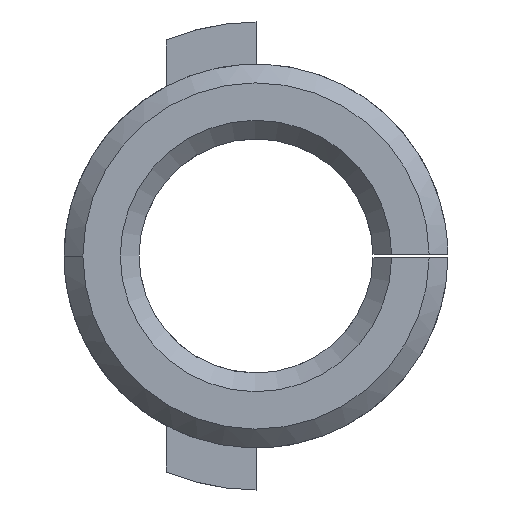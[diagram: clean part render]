
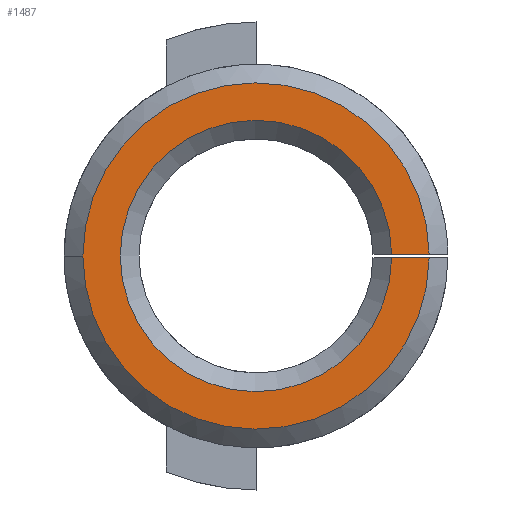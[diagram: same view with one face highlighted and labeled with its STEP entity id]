
A CAD part, front view. The second image highlights one B-rep face of the part: STEP entity #1487.
In plain terms, the highlighted planar face has unit normal (0, -1, 0).
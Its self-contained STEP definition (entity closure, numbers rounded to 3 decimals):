
#8 = PLANE ( 'NONE',  #386 ) ;
#14 = AXIS2_PLACEMENT_3D ( 'NONE', #216, #634, #1745 ) ;
#21 = VERTEX_POINT ( 'NONE', #370 ) ;
#45 = CIRCLE ( 'NONE', #1327, 9.25 ) ;
#162 = CARTESIAN_POINT ( 'NONE',  ( 9.25, 0., 0.1 ) ) ;
#173 = CARTESIAN_POINT ( 'NONE',  ( 0., 0., 0. ) ) ;
#216 = CARTESIAN_POINT ( 'NONE',  ( 0., 0., 0. ) ) ;
#217 = VECTOR ( 'NONE', #770, 1000. ) ;
#285 = ORIENTED_EDGE ( 'NONE', *, *, #1578, .T. ) ;
#362 = EDGE_CURVE ( 'NONE', #1429, #791, #464, .T. ) ;
#370 = CARTESIAN_POINT ( 'NONE',  ( 7.249, 0., -0.1 ) ) ;
#386 = AXIS2_PLACEMENT_3D ( 'NONE', #1102, #1669, #1272 ) ;
#443 = CIRCLE ( 'NONE', #600, 9.25 ) ;
#464 = LINE ( 'NONE', #1736, #217 ) ;
#500 = EDGE_CURVE ( 'NONE', #1323, #1695, #443, .T. ) ;
#519 = ORIENTED_EDGE ( 'NONE', *, *, #362, .T. ) ;
#522 = DIRECTION ( 'NONE',  ( 1., 0., 0. ) ) ;
#530 = CARTESIAN_POINT ( 'NONE',  ( 0., 0., 0. ) ) ;
#600 = AXIS2_PLACEMENT_3D ( 'NONE', #530, #1099, #522 ) ;
#630 = CARTESIAN_POINT ( 'NONE',  ( 9.25, 0., -0.1 ) ) ;
#634 = DIRECTION ( 'NONE',  ( 0., 1., 0. ) ) ;
#672 = LINE ( 'NONE', #1309, #1544 ) ;
#712 = ORIENTED_EDGE ( 'NONE', *, *, #1017, .T. ) ;
#752 = DIRECTION ( 'NONE',  ( -1., 0., 0. ) ) ;
#770 = DIRECTION ( 'NONE',  ( 1., 0., 0. ) ) ;
#791 = VERTEX_POINT ( 'NONE', #162 ) ;
#809 = ORIENTED_EDGE ( 'NONE', *, *, #500, .T. ) ;
#950 = CARTESIAN_POINT ( 'NONE',  ( -9.25, 0., 0. ) ) ;
#1017 = EDGE_CURVE ( 'NONE', #1695, #21, #672, .T. ) ;
#1099 = DIRECTION ( 'NONE',  ( 0., -1., 0. ) ) ;
#1102 = CARTESIAN_POINT ( 'NONE',  ( 0., 0., 0. ) ) ;
#1142 = DIRECTION ( 'NONE',  ( 0., -1., 0. ) ) ;
#1156 = EDGE_CURVE ( 'NONE', #21, #1429, #1337, .T. ) ;
#1224 = ORIENTED_EDGE ( 'NONE', *, *, #1156, .T. ) ;
#1234 = FACE_OUTER_BOUND ( 'NONE', #1764, .T. ) ;
#1272 = DIRECTION ( 'NONE',  ( 1., 0., 0. ) ) ;
#1309 = CARTESIAN_POINT ( 'NONE',  ( 3.155, 0., -0.1 ) ) ;
#1323 = VERTEX_POINT ( 'NONE', #950 ) ;
#1327 = AXIS2_PLACEMENT_3D ( 'NONE', #173, #1142, #1691 ) ;
#1337 = CIRCLE ( 'NONE', #14, 7.25 ) ;
#1349 = CARTESIAN_POINT ( 'NONE',  ( 7.249, 0., 0.1 ) ) ;
#1429 = VERTEX_POINT ( 'NONE', #1349 ) ;
#1487 = ADVANCED_FACE ( 'NONE', ( #1234 ), #8, .T. ) ;
#1544 = VECTOR ( 'NONE', #752, 1000. ) ;
#1578 = EDGE_CURVE ( 'NONE', #791, #1323, #45, .T. ) ;
#1669 = DIRECTION ( 'NONE',  ( 0., -1., 0. ) ) ;
#1691 = DIRECTION ( 'NONE',  ( 1., 0., 0. ) ) ;
#1695 = VERTEX_POINT ( 'NONE', #630 ) ;
#1736 = CARTESIAN_POINT ( 'NONE',  ( 11.451, 0., 0.1 ) ) ;
#1745 = DIRECTION ( 'NONE',  ( 1., 0., 0. ) ) ;
#1764 = EDGE_LOOP ( 'NONE', ( #712, #1224, #519, #285, #809 ) ) ;
